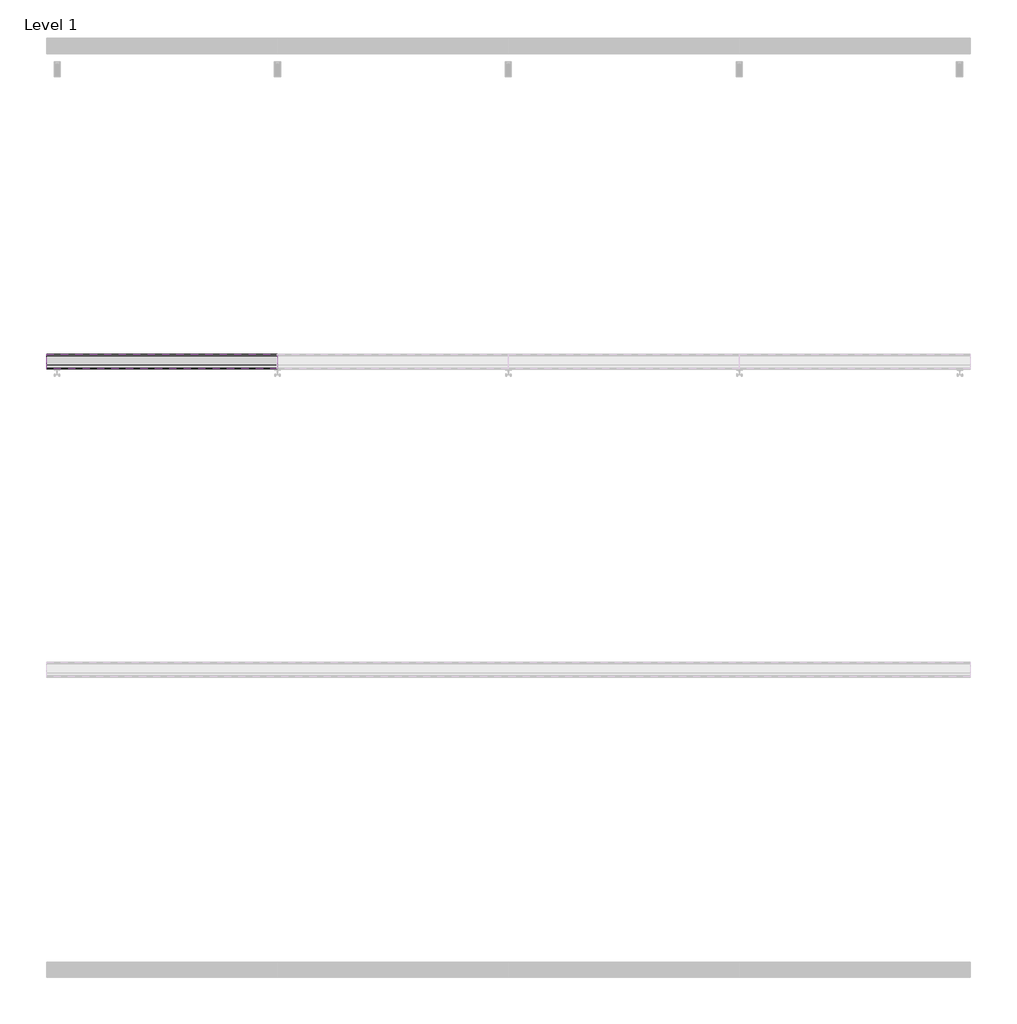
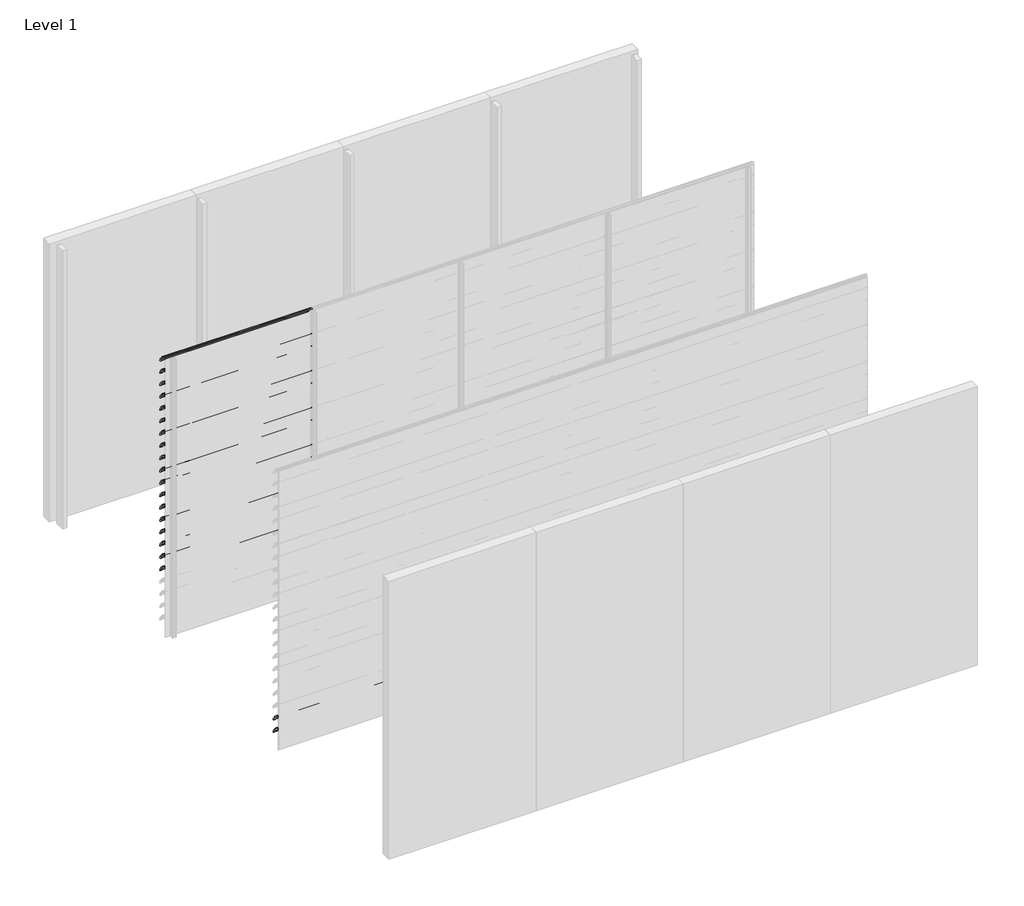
# One storey, part 15 of 57: 20 proxies.
"""IFC4 building model written with IfcOpenShell, lengths in millimetres."""

from ifc_helpers import new_model, si_unit, point, frame, frame_2d, origin, place, context, project, spatial, polyline, circle_curve, trimmed, segment, composite_curve, outline, extrude, element, save

model = new_model("IFC4")

# Units and contexts
model_context = context("Model", 3, world=origin())
ifc_project = project(units=[si_unit("LENGTHUNIT", "METRE", prefix="MILLI")], contexts=[model_context])

# Site, building, storey
site = spatial("IfcSite", under=ifc_project)
building = spatial("IfcBuilding", under=site)
storey = spatial("IfcBuildingStorey", under=building, Name="Level 1", Elevation=0.0)

# Proxies
placement = place(None, origin())
element("IfcBuildingElementProxy", 1, Name="Wall Sweeps", at=placement, inside=storey, context=model_context, shape_type="SweptSolid", body=[
    extrude(outline(composite_curve([segment(trimmed(circle_curve(frame_2d((-41993.7822526, 3016.4913792)), 4.2177474), [point((-41989.6985606, 3017.5462976))], [point((-41993.7822526, 3020.7091266))], False, "CARTESIAN"), True, "CONTINUOUS"), segment(trimmed(circle_curve(frame_2d((-42018.7150834, 2918.2536312)), 105.4456002), [point((-41993.7822526, 3020.7091266))], [point((-41971.7914298, 3012.6832099))], False, "CARTESIAN"), True, "CONTINUOUS"), segment(trimmed(circle_curve(frame_2d((-42061.7199745, 2864.0352476)), 173.7335887), [point((-41971.7914298, 3012.6832099))], [point((-41913.0720121, 2953.9637922))], False, "CARTESIAN"), True, "CONTINUOUS"), segment(trimmed(circle_curve(frame_2d((-42004.9297178, 2902.1860314)), 105.4456002), [point((-41913.0720121, 2953.9637922))], [point((-41903.6249616, 2931.4455765))], False, "CARTESIAN"), True, "CONTINUOUS"), segment(trimmed(circle_curve(frame_2d((-41907.809737, 2930.3307305)), 4.3307305), [point((-41903.6249616, 2931.4455765))], [point((-41909.0769196, 2926.189538))], False, "CARTESIAN"), True, "CONTINUOUS"), segment(polyline([(-41909.0769196, 2926.189538), (-41934.7401984, 2950.9722783)]), True, "CONTINUOUS"), segment(trimmed(circle_curve(frame_2d((-41931.3879574, 2953.2977626)), 4.079877), [point((-41934.7401984, 2950.9722783))], [point((-41930.7310597, 2957.3244091))], False, "CARTESIAN"), True, "CONTINUOUS"), segment(trimmed(circle_curve(frame_2d((-42014.6665585, 2935.2544323)), 86.7885467), [point((-41930.7310597, 2957.3244091))], [point((-41942.3028351, 2983.1683485))], True, "CARTESIAN"), True, "CONTINUOUS"), segment(polyline([(-41942.3028351, 2983.1683485), (-41940.7230099, 2985.9046861)]), True, "CONTINUOUS"), segment(trimmed(circle_curve(frame_2d((-42061.7199745, 2864.0352476)), 171.7335887), [point((-41940.7230099, 2985.9046861))], [point((-41972.7555872, 3010.9289618))], True, "CARTESIAN"), True, "CONTINUOUS"), segment(trimmed(circle_curve(frame_2d((-42018.7150834, 2918.2536312)), 103.4456002), [point((-41972.7555872, 3010.9289618))], [point((-41989.6985606, 3017.5462976))], True, "CARTESIAN"), True, "CONTINUOUS")], self_intersect=False)), frame((0.0, 0.0, 0.0), z_axis=(1.0, 0.0, 0.0), x_axis=(0.0, 1.0, 0.0)), (0.0, 0.0, 1.0), 1500.0),
])
element("IfcBuildingElementProxy", 2, Name="Wall Sweeps", at=placement, inside=storey, context=model_context, shape_type="SweptSolid", body=[
    extrude(outline(composite_curve([segment(trimmed(circle_curve(frame_2d((-41993.7822526, 2883.4913792)), 4.2177474), [point((-41989.6985606, 2884.5462976))], [point((-41993.7822526, 2887.7091266))], False, "CARTESIAN"), True, "CONTINUOUS"), segment(trimmed(circle_curve(frame_2d((-42018.7150834, 2785.2536312)), 105.4456002), [point((-41993.7822526, 2887.7091266))], [point((-41971.7914298, 2879.6832099))], False, "CARTESIAN"), True, "CONTINUOUS"), segment(trimmed(circle_curve(frame_2d((-42061.7199745, 2731.0352476)), 173.7335887), [point((-41971.7914298, 2879.6832099))], [point((-41913.0720121, 2820.9637922))], False, "CARTESIAN"), True, "CONTINUOUS"), segment(trimmed(circle_curve(frame_2d((-42004.9297178, 2769.1860314)), 105.4456002), [point((-41913.0720121, 2820.9637922))], [point((-41903.6249616, 2798.4455765))], False, "CARTESIAN"), True, "CONTINUOUS"), segment(trimmed(circle_curve(frame_2d((-41907.809737, 2797.3307305)), 4.3307305), [point((-41903.6249616, 2798.4455765))], [point((-41909.0769196, 2793.189538))], False, "CARTESIAN"), True, "CONTINUOUS"), segment(polyline([(-41909.0769196, 2793.189538), (-41934.7401984, 2817.9722783)]), True, "CONTINUOUS"), segment(trimmed(circle_curve(frame_2d((-41931.3879574, 2820.2977626)), 4.079877), [point((-41934.7401984, 2817.9722783))], [point((-41930.7310597, 2824.3244091))], False, "CARTESIAN"), True, "CONTINUOUS"), segment(trimmed(circle_curve(frame_2d((-42014.6665585, 2802.2544323)), 86.7885467), [point((-41930.7310597, 2824.3244091))], [point((-41942.3028351, 2850.1683485))], True, "CARTESIAN"), True, "CONTINUOUS"), segment(polyline([(-41942.3028351, 2850.1683485), (-41940.7230099, 2852.9046861)]), True, "CONTINUOUS"), segment(trimmed(circle_curve(frame_2d((-42061.7199745, 2731.0352476)), 171.7335887), [point((-41940.7230099, 2852.9046861))], [point((-41972.7555872, 2877.9289618))], True, "CARTESIAN"), True, "CONTINUOUS"), segment(trimmed(circle_curve(frame_2d((-42018.7150834, 2785.2536312)), 103.4456002), [point((-41972.7555872, 2877.9289618))], [point((-41989.6985606, 2884.5462976))], True, "CARTESIAN"), True, "CONTINUOUS")], self_intersect=False)), frame((0.0, 0.0, 0.0), z_axis=(1.0, 0.0, 0.0), x_axis=(0.0, 1.0, 0.0)), (0.0, 0.0, 1.0), 1500.0),
])
element("IfcBuildingElementProxy", 3, Name="Wall Sweeps", at=placement, inside=storey, context=model_context, shape_type="SweptSolid", body=[
    extrude(outline(composite_curve([segment(trimmed(circle_curve(frame_2d((-41993.7822526, 2750.4913792)), 4.2177474), [point((-41989.6985606, 2751.5462976))], [point((-41993.7822526, 2754.7091266))], False, "CARTESIAN"), True, "CONTINUOUS"), segment(trimmed(circle_curve(frame_2d((-42018.7150834, 2652.2536312)), 105.4456002), [point((-41993.7822526, 2754.7091266))], [point((-41971.7914298, 2746.6832099))], False, "CARTESIAN"), True, "CONTINUOUS"), segment(trimmed(circle_curve(frame_2d((-42061.7199745, 2598.0352476)), 173.7335887), [point((-41971.7914298, 2746.6832099))], [point((-41913.0720121, 2687.9637922))], False, "CARTESIAN"), True, "CONTINUOUS"), segment(trimmed(circle_curve(frame_2d((-42004.9297178, 2636.1860314)), 105.4456002), [point((-41913.0720121, 2687.9637922))], [point((-41903.6249616, 2665.4455765))], False, "CARTESIAN"), True, "CONTINUOUS"), segment(trimmed(circle_curve(frame_2d((-41907.809737, 2664.3307305)), 4.3307305), [point((-41903.6249616, 2665.4455765))], [point((-41909.0769196, 2660.189538))], False, "CARTESIAN"), True, "CONTINUOUS"), segment(polyline([(-41909.0769196, 2660.189538), (-41934.7401984, 2684.9722783)]), True, "CONTINUOUS"), segment(trimmed(circle_curve(frame_2d((-41931.3879574, 2687.2977626)), 4.079877), [point((-41934.7401984, 2684.9722783))], [point((-41930.7310597, 2691.3244091))], False, "CARTESIAN"), True, "CONTINUOUS"), segment(trimmed(circle_curve(frame_2d((-42014.6665585, 2669.2544323)), 86.7885467), [point((-41930.7310597, 2691.3244091))], [point((-41942.3028351, 2717.1683485))], True, "CARTESIAN"), True, "CONTINUOUS"), segment(polyline([(-41942.3028351, 2717.1683485), (-41940.7230099, 2719.9046861)]), True, "CONTINUOUS"), segment(trimmed(circle_curve(frame_2d((-42061.7199745, 2598.0352476)), 171.7335887), [point((-41940.7230099, 2719.9046861))], [point((-41972.7555872, 2744.9289618))], True, "CARTESIAN"), True, "CONTINUOUS"), segment(trimmed(circle_curve(frame_2d((-42018.7150834, 2652.2536312)), 103.4456002), [point((-41972.7555872, 2744.9289618))], [point((-41989.6985606, 2751.5462976))], True, "CARTESIAN"), True, "CONTINUOUS")], self_intersect=False)), frame((0.0, 0.0, 0.0), z_axis=(1.0, 0.0, 0.0), x_axis=(0.0, 1.0, 0.0)), (0.0, 0.0, 1.0), 1500.0),
])
element("IfcBuildingElementProxy", 4, Name="Wall Sweeps", at=placement, inside=storey, context=model_context, shape_type="SweptSolid", body=[
    extrude(outline(composite_curve([segment(trimmed(circle_curve(frame_2d((-41993.7822526, 2617.4913792)), 4.2177474), [point((-41989.6985606, 2618.5462976))], [point((-41993.7822526, 2621.7091266))], False, "CARTESIAN"), True, "CONTINUOUS"), segment(trimmed(circle_curve(frame_2d((-42018.7150834, 2519.2536312)), 105.4456002), [point((-41993.7822526, 2621.7091266))], [point((-41971.7914298, 2613.6832099))], False, "CARTESIAN"), True, "CONTINUOUS"), segment(trimmed(circle_curve(frame_2d((-42061.7199745, 2465.0352476)), 173.7335887), [point((-41971.7914298, 2613.6832099))], [point((-41913.0720121, 2554.9637922))], False, "CARTESIAN"), True, "CONTINUOUS"), segment(trimmed(circle_curve(frame_2d((-42004.9297178, 2503.1860314)), 105.4456002), [point((-41913.0720121, 2554.9637922))], [point((-41903.6249616, 2532.4455765))], False, "CARTESIAN"), True, "CONTINUOUS"), segment(trimmed(circle_curve(frame_2d((-41907.809737, 2531.3307305)), 4.3307305), [point((-41903.6249616, 2532.4455765))], [point((-41909.0769196, 2527.189538))], False, "CARTESIAN"), True, "CONTINUOUS"), segment(polyline([(-41909.0769196, 2527.189538), (-41934.7401984, 2551.9722783)]), True, "CONTINUOUS"), segment(trimmed(circle_curve(frame_2d((-41931.3879574, 2554.2977626)), 4.079877), [point((-41934.7401984, 2551.9722783))], [point((-41930.7310597, 2558.3244091))], False, "CARTESIAN"), True, "CONTINUOUS"), segment(trimmed(circle_curve(frame_2d((-42014.6665585, 2536.2544323)), 86.7885467), [point((-41930.7310597, 2558.3244091))], [point((-41942.3028351, 2584.1683485))], True, "CARTESIAN"), True, "CONTINUOUS"), segment(polyline([(-41942.3028351, 2584.1683485), (-41940.7230099, 2586.9046861)]), True, "CONTINUOUS"), segment(trimmed(circle_curve(frame_2d((-42061.7199745, 2465.0352476)), 171.7335887), [point((-41940.7230099, 2586.9046861))], [point((-41972.7555872, 2611.9289618))], True, "CARTESIAN"), True, "CONTINUOUS"), segment(trimmed(circle_curve(frame_2d((-42018.7150834, 2519.2536312)), 103.4456002), [point((-41972.7555872, 2611.9289618))], [point((-41989.6985606, 2618.5462976))], True, "CARTESIAN"), True, "CONTINUOUS")], self_intersect=False)), frame((0.0, 0.0, 0.0), z_axis=(1.0, 0.0, 0.0), x_axis=(0.0, 1.0, 0.0)), (0.0, 0.0, 1.0), 1500.0),
])
element("IfcBuildingElementProxy", 5, Name="Wall Sweeps", at=placement, inside=storey, context=model_context, shape_type="SweptSolid", body=[
    extrude(outline(composite_curve([segment(trimmed(circle_curve(frame_2d((-41993.7822526, 2484.4913792)), 4.2177474), [point((-41989.6985606, 2485.5462976))], [point((-41993.7822526, 2488.7091266))], False, "CARTESIAN"), True, "CONTINUOUS"), segment(trimmed(circle_curve(frame_2d((-42018.7150834, 2386.2536312)), 105.4456002), [point((-41993.7822526, 2488.7091266))], [point((-41971.7914298, 2480.6832099))], False, "CARTESIAN"), True, "CONTINUOUS"), segment(trimmed(circle_curve(frame_2d((-42061.7199745, 2332.0352476)), 173.7335887), [point((-41971.7914298, 2480.6832099))], [point((-41913.0720121, 2421.9637922))], False, "CARTESIAN"), True, "CONTINUOUS"), segment(trimmed(circle_curve(frame_2d((-42004.9297178, 2370.1860314)), 105.4456002), [point((-41913.0720121, 2421.9637922))], [point((-41903.6249616, 2399.4455765))], False, "CARTESIAN"), True, "CONTINUOUS"), segment(trimmed(circle_curve(frame_2d((-41907.809737, 2398.3307305)), 4.3307305), [point((-41903.6249616, 2399.4455765))], [point((-41909.0769196, 2394.189538))], False, "CARTESIAN"), True, "CONTINUOUS"), segment(polyline([(-41909.0769196, 2394.189538), (-41934.7401984, 2418.9722783)]), True, "CONTINUOUS"), segment(trimmed(circle_curve(frame_2d((-41931.3879574, 2421.2977626)), 4.079877), [point((-41934.7401984, 2418.9722783))], [point((-41930.7310597, 2425.3244091))], False, "CARTESIAN"), True, "CONTINUOUS"), segment(trimmed(circle_curve(frame_2d((-42014.6665585, 2403.2544323)), 86.7885467), [point((-41930.7310597, 2425.3244091))], [point((-41942.3028351, 2451.1683485))], True, "CARTESIAN"), True, "CONTINUOUS"), segment(polyline([(-41942.3028351, 2451.1683485), (-41940.7230099, 2453.9046861)]), True, "CONTINUOUS"), segment(trimmed(circle_curve(frame_2d((-42061.7199745, 2332.0352476)), 171.7335887), [point((-41940.7230099, 2453.9046861))], [point((-41972.7555872, 2478.9289618))], True, "CARTESIAN"), True, "CONTINUOUS"), segment(trimmed(circle_curve(frame_2d((-42018.7150834, 2386.2536312)), 103.4456002), [point((-41972.7555872, 2478.9289618))], [point((-41989.6985606, 2485.5462976))], True, "CARTESIAN"), True, "CONTINUOUS")], self_intersect=False)), frame((0.0, 0.0, 0.0), z_axis=(1.0, 0.0, 0.0), x_axis=(0.0, 1.0, 0.0)), (0.0, 0.0, 1.0), 1500.0),
])
element("IfcBuildingElementProxy", 6, Name="Wall Sweeps", at=placement, inside=storey, context=model_context, shape_type="SweptSolid", body=[
    extrude(outline(composite_curve([segment(trimmed(circle_curve(frame_2d((-41993.7822526, 2351.4913792)), 4.2177474), [point((-41989.6985606, 2352.5462976))], [point((-41993.7822526, 2355.7091266))], False, "CARTESIAN"), True, "CONTINUOUS"), segment(trimmed(circle_curve(frame_2d((-42018.7150834, 2253.2536312)), 105.4456002), [point((-41993.7822526, 2355.7091266))], [point((-41971.7914298, 2347.6832099))], False, "CARTESIAN"), True, "CONTINUOUS"), segment(trimmed(circle_curve(frame_2d((-42061.7199745, 2199.0352476)), 173.7335887), [point((-41971.7914298, 2347.6832099))], [point((-41913.0720121, 2288.9637922))], False, "CARTESIAN"), True, "CONTINUOUS"), segment(trimmed(circle_curve(frame_2d((-42004.9297178, 2237.1860314)), 105.4456002), [point((-41913.0720121, 2288.9637922))], [point((-41903.6249616, 2266.4455765))], False, "CARTESIAN"), True, "CONTINUOUS"), segment(trimmed(circle_curve(frame_2d((-41907.809737, 2265.3307305)), 4.3307305), [point((-41903.6249616, 2266.4455765))], [point((-41909.0769196, 2261.189538))], False, "CARTESIAN"), True, "CONTINUOUS"), segment(polyline([(-41909.0769196, 2261.189538), (-41934.7401984, 2285.9722783)]), True, "CONTINUOUS"), segment(trimmed(circle_curve(frame_2d((-41931.3879574, 2288.2977626)), 4.079877), [point((-41934.7401984, 2285.9722783))], [point((-41930.7310597, 2292.3244091))], False, "CARTESIAN"), True, "CONTINUOUS"), segment(trimmed(circle_curve(frame_2d((-42014.6665585, 2270.2544323)), 86.7885467), [point((-41930.7310597, 2292.3244091))], [point((-41942.3028351, 2318.1683485))], True, "CARTESIAN"), True, "CONTINUOUS"), segment(polyline([(-41942.3028351, 2318.1683485), (-41940.7230099, 2320.9046861)]), True, "CONTINUOUS"), segment(trimmed(circle_curve(frame_2d((-42061.7199745, 2199.0352476)), 171.7335887), [point((-41940.7230099, 2320.9046861))], [point((-41972.7555872, 2345.9289618))], True, "CARTESIAN"), True, "CONTINUOUS"), segment(trimmed(circle_curve(frame_2d((-42018.7150834, 2253.2536312)), 103.4456002), [point((-41972.7555872, 2345.9289618))], [point((-41989.6985606, 2352.5462976))], True, "CARTESIAN"), True, "CONTINUOUS")], self_intersect=False)), frame((0.0, 0.0, 0.0), z_axis=(1.0, 0.0, 0.0), x_axis=(0.0, 1.0, 0.0)), (0.0, 0.0, 1.0), 1500.0),
])
element("IfcBuildingElementProxy", 7, Name="Wall Sweeps", at=placement, inside=storey, context=model_context, shape_type="SweptSolid", body=[
    extrude(outline(composite_curve([segment(trimmed(circle_curve(frame_2d((-41993.7822526, 2218.4913792)), 4.2177474), [point((-41989.6985606, 2219.5462976))], [point((-41993.7822526, 2222.7091266))], False, "CARTESIAN"), True, "CONTINUOUS"), segment(trimmed(circle_curve(frame_2d((-42018.7150834, 2120.2536312)), 105.4456002), [point((-41993.7822526, 2222.7091266))], [point((-41971.7914298, 2214.6832099))], False, "CARTESIAN"), True, "CONTINUOUS"), segment(trimmed(circle_curve(frame_2d((-42061.7199745, 2066.0352476)), 173.7335887), [point((-41971.7914298, 2214.6832099))], [point((-41913.0720121, 2155.9637922))], False, "CARTESIAN"), True, "CONTINUOUS"), segment(trimmed(circle_curve(frame_2d((-42004.9297178, 2104.1860314)), 105.4456002), [point((-41913.0720121, 2155.9637922))], [point((-41903.6249616, 2133.4455765))], False, "CARTESIAN"), True, "CONTINUOUS"), segment(trimmed(circle_curve(frame_2d((-41907.809737, 2132.3307305)), 4.3307305), [point((-41903.6249616, 2133.4455765))], [point((-41909.0769196, 2128.189538))], False, "CARTESIAN"), True, "CONTINUOUS"), segment(polyline([(-41909.0769196, 2128.189538), (-41934.7401984, 2152.9722783)]), True, "CONTINUOUS"), segment(trimmed(circle_curve(frame_2d((-41931.3879574, 2155.2977626)), 4.079877), [point((-41934.7401984, 2152.9722783))], [point((-41930.7310597, 2159.3244091))], False, "CARTESIAN"), True, "CONTINUOUS"), segment(trimmed(circle_curve(frame_2d((-42014.6665585, 2137.2544323)), 86.7885467), [point((-41930.7310597, 2159.3244091))], [point((-41942.3028351, 2185.1683485))], True, "CARTESIAN"), True, "CONTINUOUS"), segment(polyline([(-41942.3028351, 2185.1683485), (-41940.7230099, 2187.9046861)]), True, "CONTINUOUS"), segment(trimmed(circle_curve(frame_2d((-42061.7199745, 2066.0352476)), 171.7335887), [point((-41940.7230099, 2187.9046861))], [point((-41972.7555872, 2212.9289618))], True, "CARTESIAN"), True, "CONTINUOUS"), segment(trimmed(circle_curve(frame_2d((-42018.7150834, 2120.2536312)), 103.4456002), [point((-41972.7555872, 2212.9289618))], [point((-41989.6985606, 2219.5462976))], True, "CARTESIAN"), True, "CONTINUOUS")], self_intersect=False)), frame((0.0, 0.0, 0.0), z_axis=(1.0, 0.0, 0.0), x_axis=(0.0, 1.0, 0.0)), (0.0, 0.0, 1.0), 1500.0),
])
element("IfcBuildingElementProxy", 8, Name="Wall Sweeps", at=placement, inside=storey, context=model_context, shape_type="SweptSolid", body=[
    extrude(outline(composite_curve([segment(trimmed(circle_curve(frame_2d((-41993.7822526, 2085.4913792)), 4.2177474), [point((-41989.6985606, 2086.5462976))], [point((-41993.7822526, 2089.7091266))], False, "CARTESIAN"), True, "CONTINUOUS"), segment(trimmed(circle_curve(frame_2d((-42018.7150834, 1987.2536312)), 105.4456002), [point((-41993.7822526, 2089.7091266))], [point((-41971.7914298, 2081.6832099))], False, "CARTESIAN"), True, "CONTINUOUS"), segment(trimmed(circle_curve(frame_2d((-42061.7199745, 1933.0352476)), 173.7335887), [point((-41971.7914298, 2081.6832099))], [point((-41913.0720121, 2022.9637922))], False, "CARTESIAN"), True, "CONTINUOUS"), segment(trimmed(circle_curve(frame_2d((-42004.9297178, 1971.1860314)), 105.4456002), [point((-41913.0720121, 2022.9637922))], [point((-41903.6249616, 2000.4455765))], False, "CARTESIAN"), True, "CONTINUOUS"), segment(trimmed(circle_curve(frame_2d((-41907.809737, 1999.3307305)), 4.3307305), [point((-41903.6249616, 2000.4455765))], [point((-41909.0769196, 1995.189538))], False, "CARTESIAN"), True, "CONTINUOUS"), segment(polyline([(-41909.0769196, 1995.189538), (-41934.7401984, 2019.9722783)]), True, "CONTINUOUS"), segment(trimmed(circle_curve(frame_2d((-41931.3879574, 2022.2977626)), 4.079877), [point((-41934.7401984, 2019.9722783))], [point((-41930.7310597, 2026.3244091))], False, "CARTESIAN"), True, "CONTINUOUS"), segment(trimmed(circle_curve(frame_2d((-42014.6665585, 2004.2544323)), 86.7885467), [point((-41930.7310597, 2026.3244091))], [point((-41942.3028351, 2052.1683485))], True, "CARTESIAN"), True, "CONTINUOUS"), segment(polyline([(-41942.3028351, 2052.1683485), (-41940.7230099, 2054.9046861)]), True, "CONTINUOUS"), segment(trimmed(circle_curve(frame_2d((-42061.7199745, 1933.0352476)), 171.7335887), [point((-41940.7230099, 2054.9046861))], [point((-41972.7555872, 2079.9289618))], True, "CARTESIAN"), True, "CONTINUOUS"), segment(trimmed(circle_curve(frame_2d((-42018.7150834, 1987.2536312)), 103.4456002), [point((-41972.7555872, 2079.9289618))], [point((-41989.6985606, 2086.5462976))], True, "CARTESIAN"), True, "CONTINUOUS")], self_intersect=False)), frame((0.0, 0.0, 0.0), z_axis=(1.0, 0.0, 0.0), x_axis=(0.0, 1.0, 0.0)), (0.0, 0.0, 1.0), 1500.0),
])
element("IfcBuildingElementProxy", 9, Name="Wall Sweeps", at=placement, inside=storey, context=model_context, shape_type="SweptSolid", body=[
    extrude(outline(composite_curve([segment(trimmed(circle_curve(frame_2d((-41993.7822526, 1952.4913792)), 4.2177474), [point((-41989.6985606, 1953.5462976))], [point((-41993.7822526, 1956.7091266))], False, "CARTESIAN"), True, "CONTINUOUS"), segment(trimmed(circle_curve(frame_2d((-42018.7150834, 1854.2536312)), 105.4456002), [point((-41993.7822526, 1956.7091266))], [point((-41971.7914298, 1948.6832099))], False, "CARTESIAN"), True, "CONTINUOUS"), segment(trimmed(circle_curve(frame_2d((-42061.7199745, 1800.0352476)), 173.7335887), [point((-41971.7914298, 1948.6832099))], [point((-41913.0720121, 1889.9637922))], False, "CARTESIAN"), True, "CONTINUOUS"), segment(trimmed(circle_curve(frame_2d((-42004.9297178, 1838.1860314)), 105.4456002), [point((-41913.0720121, 1889.9637922))], [point((-41903.6249616, 1867.4455765))], False, "CARTESIAN"), True, "CONTINUOUS"), segment(trimmed(circle_curve(frame_2d((-41907.809737, 1866.3307305)), 4.3307305), [point((-41903.6249616, 1867.4455765))], [point((-41909.0769196, 1862.189538))], False, "CARTESIAN"), True, "CONTINUOUS"), segment(polyline([(-41909.0769196, 1862.189538), (-41934.7401984, 1886.9722783)]), True, "CONTINUOUS"), segment(trimmed(circle_curve(frame_2d((-41931.3879574, 1889.2977626)), 4.079877), [point((-41934.7401984, 1886.9722783))], [point((-41930.7310597, 1893.3244091))], False, "CARTESIAN"), True, "CONTINUOUS"), segment(trimmed(circle_curve(frame_2d((-42014.6665585, 1871.2544323)), 86.7885467), [point((-41930.7310597, 1893.3244091))], [point((-41942.3028351, 1919.1683485))], True, "CARTESIAN"), True, "CONTINUOUS"), segment(polyline([(-41942.3028351, 1919.1683485), (-41940.7230099, 1921.9046861)]), True, "CONTINUOUS"), segment(trimmed(circle_curve(frame_2d((-42061.7199745, 1800.0352476)), 171.7335887), [point((-41940.7230099, 1921.9046861))], [point((-41972.7555872, 1946.9289618))], True, "CARTESIAN"), True, "CONTINUOUS"), segment(trimmed(circle_curve(frame_2d((-42018.7150834, 1854.2536312)), 103.4456002), [point((-41972.7555872, 1946.9289618))], [point((-41989.6985606, 1953.5462976))], True, "CARTESIAN"), True, "CONTINUOUS")], self_intersect=False)), frame((0.0, 0.0, 0.0), z_axis=(1.0, 0.0, 0.0), x_axis=(0.0, 1.0, 0.0)), (0.0, 0.0, 1.0), 1500.0),
])
element("IfcBuildingElementProxy", 10, Name="Wall Sweeps", at=placement, inside=storey, context=model_context, shape_type="SweptSolid", body=[
    extrude(outline(composite_curve([segment(trimmed(circle_curve(frame_2d((-41993.7822526, 1819.4913792)), 4.2177474), [point((-41989.6985606, 1820.5462976))], [point((-41993.7822526, 1823.7091266))], False, "CARTESIAN"), True, "CONTINUOUS"), segment(trimmed(circle_curve(frame_2d((-42018.7150834, 1721.2536312)), 105.4456002), [point((-41993.7822526, 1823.7091266))], [point((-41971.7914298, 1815.6832099))], False, "CARTESIAN"), True, "CONTINUOUS"), segment(trimmed(circle_curve(frame_2d((-42061.7199745, 1667.0352476)), 173.7335887), [point((-41971.7914298, 1815.6832099))], [point((-41913.0720121, 1756.9637922))], False, "CARTESIAN"), True, "CONTINUOUS"), segment(trimmed(circle_curve(frame_2d((-42004.9297178, 1705.1860314)), 105.4456002), [point((-41913.0720121, 1756.9637922))], [point((-41903.6249616, 1734.4455765))], False, "CARTESIAN"), True, "CONTINUOUS"), segment(trimmed(circle_curve(frame_2d((-41907.809737, 1733.3307305)), 4.3307305), [point((-41903.6249616, 1734.4455765))], [point((-41909.0769196, 1729.189538))], False, "CARTESIAN"), True, "CONTINUOUS"), segment(polyline([(-41909.0769196, 1729.189538), (-41934.7401984, 1753.9722783)]), True, "CONTINUOUS"), segment(trimmed(circle_curve(frame_2d((-41931.3879574, 1756.2977626)), 4.079877), [point((-41934.7401984, 1753.9722783))], [point((-41930.7310597, 1760.3244091))], False, "CARTESIAN"), True, "CONTINUOUS"), segment(trimmed(circle_curve(frame_2d((-42014.6665585, 1738.2544323)), 86.7885467), [point((-41930.7310597, 1760.3244091))], [point((-41942.3028351, 1786.1683485))], True, "CARTESIAN"), True, "CONTINUOUS"), segment(polyline([(-41942.3028351, 1786.1683485), (-41940.7230099, 1788.9046861)]), True, "CONTINUOUS"), segment(trimmed(circle_curve(frame_2d((-42061.7199745, 1667.0352476)), 171.7335887), [point((-41940.7230099, 1788.9046861))], [point((-41972.7555872, 1813.9289618))], True, "CARTESIAN"), True, "CONTINUOUS"), segment(trimmed(circle_curve(frame_2d((-42018.7150834, 1721.2536312)), 103.4456002), [point((-41972.7555872, 1813.9289618))], [point((-41989.6985606, 1820.5462976))], True, "CARTESIAN"), True, "CONTINUOUS")], self_intersect=False)), frame((0.0, 0.0, 0.0), z_axis=(1.0, 0.0, 0.0), x_axis=(0.0, 1.0, 0.0)), (0.0, 0.0, 1.0), 1500.0),
])
element("IfcBuildingElementProxy", 11, Name="Wall Sweeps", at=placement, inside=storey, context=model_context, shape_type="SweptSolid", body=[
    extrude(outline(composite_curve([segment(trimmed(circle_curve(frame_2d((-41993.7822526, 1686.4913792)), 4.2177474), [point((-41989.6985606, 1687.5462976))], [point((-41993.7822526, 1690.7091266))], False, "CARTESIAN"), True, "CONTINUOUS"), segment(trimmed(circle_curve(frame_2d((-42018.7150834, 1588.2536312)), 105.4456002), [point((-41993.7822526, 1690.7091266))], [point((-41971.7914298, 1682.6832099))], False, "CARTESIAN"), True, "CONTINUOUS"), segment(trimmed(circle_curve(frame_2d((-42061.7199745, 1534.0352476)), 173.7335887), [point((-41971.7914298, 1682.6832099))], [point((-41913.0720121, 1623.9637922))], False, "CARTESIAN"), True, "CONTINUOUS"), segment(trimmed(circle_curve(frame_2d((-42004.9297178, 1572.1860314)), 105.4456002), [point((-41913.0720121, 1623.9637922))], [point((-41903.6249616, 1601.4455765))], False, "CARTESIAN"), True, "CONTINUOUS"), segment(trimmed(circle_curve(frame_2d((-41907.809737, 1600.3307305)), 4.3307305), [point((-41903.6249616, 1601.4455765))], [point((-41909.0769196, 1596.189538))], False, "CARTESIAN"), True, "CONTINUOUS"), segment(polyline([(-41909.0769196, 1596.189538), (-41934.7401984, 1620.9722783)]), True, "CONTINUOUS"), segment(trimmed(circle_curve(frame_2d((-41931.3879574, 1623.2977626)), 4.079877), [point((-41934.7401984, 1620.9722783))], [point((-41930.7310597, 1627.3244091))], False, "CARTESIAN"), True, "CONTINUOUS"), segment(trimmed(circle_curve(frame_2d((-42014.6665585, 1605.2544323)), 86.7885467), [point((-41930.7310597, 1627.3244091))], [point((-41942.3028351, 1653.1683485))], True, "CARTESIAN"), True, "CONTINUOUS"), segment(polyline([(-41942.3028351, 1653.1683485), (-41940.7230099, 1655.9046861)]), True, "CONTINUOUS"), segment(trimmed(circle_curve(frame_2d((-42061.7199745, 1534.0352476)), 171.7335887), [point((-41940.7230099, 1655.9046861))], [point((-41972.7555872, 1680.9289618))], True, "CARTESIAN"), True, "CONTINUOUS"), segment(trimmed(circle_curve(frame_2d((-42018.7150834, 1588.2536312)), 103.4456002), [point((-41972.7555872, 1680.9289618))], [point((-41989.6985606, 1687.5462976))], True, "CARTESIAN"), True, "CONTINUOUS")], self_intersect=False)), frame((0.0, 0.0, 0.0), z_axis=(1.0, 0.0, 0.0), x_axis=(0.0, 1.0, 0.0)), (0.0, 0.0, 1.0), 1500.0),
])
element("IfcBuildingElementProxy", 12, Name="Wall Sweeps", at=placement, inside=storey, context=model_context, shape_type="SweptSolid", body=[
    extrude(outline(composite_curve([segment(trimmed(circle_curve(frame_2d((-41993.7822526, 1553.4913792)), 4.2177474), [point((-41989.6985606, 1554.5462976))], [point((-41993.7822526, 1557.7091266))], False, "CARTESIAN"), True, "CONTINUOUS"), segment(trimmed(circle_curve(frame_2d((-42018.7150834, 1455.2536312)), 105.4456002), [point((-41993.7822526, 1557.7091266))], [point((-41971.7914298, 1549.6832099))], False, "CARTESIAN"), True, "CONTINUOUS"), segment(trimmed(circle_curve(frame_2d((-42061.7199745, 1401.0352476)), 173.7335887), [point((-41971.7914298, 1549.6832099))], [point((-41913.0720121, 1490.9637922))], False, "CARTESIAN"), True, "CONTINUOUS"), segment(trimmed(circle_curve(frame_2d((-42004.9297178, 1439.1860314)), 105.4456002), [point((-41913.0720121, 1490.9637922))], [point((-41903.6249616, 1468.4455765))], False, "CARTESIAN"), True, "CONTINUOUS"), segment(trimmed(circle_curve(frame_2d((-41907.809737, 1467.3307305)), 4.3307305), [point((-41903.6249616, 1468.4455765))], [point((-41909.0769196, 1463.189538))], False, "CARTESIAN"), True, "CONTINUOUS"), segment(polyline([(-41909.0769196, 1463.189538), (-41934.7401984, 1487.9722783)]), True, "CONTINUOUS"), segment(trimmed(circle_curve(frame_2d((-41931.3879574, 1490.2977626)), 4.079877), [point((-41934.7401984, 1487.9722783))], [point((-41930.7310597, 1494.3244091))], False, "CARTESIAN"), True, "CONTINUOUS"), segment(trimmed(circle_curve(frame_2d((-42014.6665585, 1472.2544323)), 86.7885467), [point((-41930.7310597, 1494.3244091))], [point((-41942.3028351, 1520.1683485))], True, "CARTESIAN"), True, "CONTINUOUS"), segment(polyline([(-41942.3028351, 1520.1683485), (-41940.7230099, 1522.9046861)]), True, "CONTINUOUS"), segment(trimmed(circle_curve(frame_2d((-42061.7199745, 1401.0352476)), 171.7335887), [point((-41940.7230099, 1522.9046861))], [point((-41972.7555872, 1547.9289618))], True, "CARTESIAN"), True, "CONTINUOUS"), segment(trimmed(circle_curve(frame_2d((-42018.7150834, 1455.2536312)), 103.4456002), [point((-41972.7555872, 1547.9289618))], [point((-41989.6985606, 1554.5462976))], True, "CARTESIAN"), True, "CONTINUOUS")], self_intersect=False)), frame((0.0, 0.0, 0.0), z_axis=(1.0, 0.0, 0.0), x_axis=(0.0, 1.0, 0.0)), (0.0, 0.0, 1.0), 1500.0),
])
element("IfcBuildingElementProxy", 13, Name="Wall Sweeps", at=placement, inside=storey, context=model_context, shape_type="SweptSolid", body=[
    extrude(outline(composite_curve([segment(trimmed(circle_curve(frame_2d((-41993.7822526, 1420.4913792)), 4.2177474), [point((-41989.6985606, 1421.5462976))], [point((-41993.7822526, 1424.7091266))], False, "CARTESIAN"), True, "CONTINUOUS"), segment(trimmed(circle_curve(frame_2d((-42018.7150834, 1322.2536312)), 105.4456002), [point((-41993.7822526, 1424.7091266))], [point((-41971.7914298, 1416.6832099))], False, "CARTESIAN"), True, "CONTINUOUS"), segment(trimmed(circle_curve(frame_2d((-42061.7199745, 1268.0352476)), 173.7335887), [point((-41971.7914298, 1416.6832099))], [point((-41913.0720121, 1357.9637922))], False, "CARTESIAN"), True, "CONTINUOUS"), segment(trimmed(circle_curve(frame_2d((-42004.9297178, 1306.1860314)), 105.4456002), [point((-41913.0720121, 1357.9637922))], [point((-41903.6249616, 1335.4455765))], False, "CARTESIAN"), True, "CONTINUOUS"), segment(trimmed(circle_curve(frame_2d((-41907.809737, 1334.3307305)), 4.3307305), [point((-41903.6249616, 1335.4455765))], [point((-41909.0769196, 1330.189538))], False, "CARTESIAN"), True, "CONTINUOUS"), segment(polyline([(-41909.0769196, 1330.189538), (-41934.7401984, 1354.9722783)]), True, "CONTINUOUS"), segment(trimmed(circle_curve(frame_2d((-41931.3879574, 1357.2977626)), 4.079877), [point((-41934.7401984, 1354.9722783))], [point((-41930.7310597, 1361.3244091))], False, "CARTESIAN"), True, "CONTINUOUS"), segment(trimmed(circle_curve(frame_2d((-42014.6665585, 1339.2544323)), 86.7885467), [point((-41930.7310597, 1361.3244091))], [point((-41942.3028351, 1387.1683485))], True, "CARTESIAN"), True, "CONTINUOUS"), segment(polyline([(-41942.3028351, 1387.1683485), (-41940.7230099, 1389.9046861)]), True, "CONTINUOUS"), segment(trimmed(circle_curve(frame_2d((-42061.7199745, 1268.0352476)), 171.7335887), [point((-41940.7230099, 1389.9046861))], [point((-41972.7555872, 1414.9289618))], True, "CARTESIAN"), True, "CONTINUOUS"), segment(trimmed(circle_curve(frame_2d((-42018.7150834, 1322.2536312)), 103.4456002), [point((-41972.7555872, 1414.9289618))], [point((-41989.6985606, 1421.5462976))], True, "CARTESIAN"), True, "CONTINUOUS")], self_intersect=False)), frame((0.0, 0.0, 0.0), z_axis=(1.0, 0.0, 0.0), x_axis=(0.0, 1.0, 0.0)), (0.0, 0.0, 1.0), 1500.0),
])
element("IfcBuildingElementProxy", 14, Name="Wall Sweeps", at=placement, inside=storey, context=model_context, shape_type="SweptSolid", body=[
    extrude(outline(composite_curve([segment(trimmed(circle_curve(frame_2d((-41993.7822526, 1287.4913792)), 4.2177474), [point((-41989.6985606, 1288.5462976))], [point((-41993.7822526, 1291.7091266))], False, "CARTESIAN"), True, "CONTINUOUS"), segment(trimmed(circle_curve(frame_2d((-42018.7150834, 1189.2536312)), 105.4456002), [point((-41993.7822526, 1291.7091266))], [point((-41971.7914298, 1283.6832099))], False, "CARTESIAN"), True, "CONTINUOUS"), segment(trimmed(circle_curve(frame_2d((-42061.7199745, 1135.0352476)), 173.7335887), [point((-41971.7914298, 1283.6832099))], [point((-41913.0720121, 1224.9637922))], False, "CARTESIAN"), True, "CONTINUOUS"), segment(trimmed(circle_curve(frame_2d((-42004.9297178, 1173.1860314)), 105.4456002), [point((-41913.0720121, 1224.9637922))], [point((-41903.6249616, 1202.4455765))], False, "CARTESIAN"), True, "CONTINUOUS"), segment(trimmed(circle_curve(frame_2d((-41907.809737, 1201.3307305)), 4.3307305), [point((-41903.6249616, 1202.4455765))], [point((-41909.0769196, 1197.189538))], False, "CARTESIAN"), True, "CONTINUOUS"), segment(polyline([(-41909.0769196, 1197.189538), (-41934.7401984, 1221.9722783)]), True, "CONTINUOUS"), segment(trimmed(circle_curve(frame_2d((-41931.3879574, 1224.2977626)), 4.079877), [point((-41934.7401984, 1221.9722783))], [point((-41930.7310597, 1228.3244091))], False, "CARTESIAN"), True, "CONTINUOUS"), segment(trimmed(circle_curve(frame_2d((-42014.6665585, 1206.2544323)), 86.7885467), [point((-41930.7310597, 1228.3244091))], [point((-41942.3028351, 1254.1683485))], True, "CARTESIAN"), True, "CONTINUOUS"), segment(polyline([(-41942.3028351, 1254.1683485), (-41940.7230099, 1256.9046861)]), True, "CONTINUOUS"), segment(trimmed(circle_curve(frame_2d((-42061.7199745, 1135.0352476)), 171.7335887), [point((-41940.7230099, 1256.9046861))], [point((-41972.7555872, 1281.9289618))], True, "CARTESIAN"), True, "CONTINUOUS"), segment(trimmed(circle_curve(frame_2d((-42018.7150834, 1189.2536312)), 103.4456002), [point((-41972.7555872, 1281.9289618))], [point((-41989.6985606, 1288.5462976))], True, "CARTESIAN"), True, "CONTINUOUS")], self_intersect=False)), frame((0.0, 0.0, 0.0), z_axis=(1.0, 0.0, 0.0), x_axis=(0.0, 1.0, 0.0)), (0.0, 0.0, 1.0), 1500.0),
])
element("IfcBuildingElementProxy", 15, Name="Wall Sweeps", at=placement, inside=storey, context=model_context, shape_type="SweptSolid", body=[
    extrude(outline(composite_curve([segment(trimmed(circle_curve(frame_2d((-41993.7822526, 1154.4913792)), 4.2177474), [point((-41989.6985606, 1155.5462976))], [point((-41993.7822526, 1158.7091266))], False, "CARTESIAN"), True, "CONTINUOUS"), segment(trimmed(circle_curve(frame_2d((-42018.7150834, 1056.2536312)), 105.4456002), [point((-41993.7822526, 1158.7091266))], [point((-41971.7914298, 1150.6832099))], False, "CARTESIAN"), True, "CONTINUOUS"), segment(trimmed(circle_curve(frame_2d((-42061.7199745, 1002.0352476)), 173.7335887), [point((-41971.7914298, 1150.6832099))], [point((-41913.0720121, 1091.9637922))], False, "CARTESIAN"), True, "CONTINUOUS"), segment(trimmed(circle_curve(frame_2d((-42004.9297178, 1040.1860314)), 105.4456002), [point((-41913.0720121, 1091.9637922))], [point((-41903.6249616, 1069.4455765))], False, "CARTESIAN"), True, "CONTINUOUS"), segment(trimmed(circle_curve(frame_2d((-41907.809737, 1068.3307305)), 4.3307305), [point((-41903.6249616, 1069.4455765))], [point((-41909.0769196, 1064.189538))], False, "CARTESIAN"), True, "CONTINUOUS"), segment(polyline([(-41909.0769196, 1064.189538), (-41934.7401984, 1088.9722783)]), True, "CONTINUOUS"), segment(trimmed(circle_curve(frame_2d((-41931.3879574, 1091.2977626)), 4.079877), [point((-41934.7401984, 1088.9722783))], [point((-41930.7310597, 1095.3244091))], False, "CARTESIAN"), True, "CONTINUOUS"), segment(trimmed(circle_curve(frame_2d((-42014.6665585, 1073.2544323)), 86.7885467), [point((-41930.7310597, 1095.3244091))], [point((-41942.3028351, 1121.1683485))], True, "CARTESIAN"), True, "CONTINUOUS"), segment(polyline([(-41942.3028351, 1121.1683485), (-41940.7230099, 1123.9046861)]), True, "CONTINUOUS"), segment(trimmed(circle_curve(frame_2d((-42061.7199745, 1002.0352476)), 171.7335887), [point((-41940.7230099, 1123.9046861))], [point((-41972.7555872, 1148.9289618))], True, "CARTESIAN"), True, "CONTINUOUS"), segment(trimmed(circle_curve(frame_2d((-42018.7150834, 1056.2536312)), 103.4456002), [point((-41972.7555872, 1148.9289618))], [point((-41989.6985606, 1155.5462976))], True, "CARTESIAN"), True, "CONTINUOUS")], self_intersect=False)), frame((0.0, 0.0, 0.0), z_axis=(1.0, 0.0, 0.0), x_axis=(0.0, 1.0, 0.0)), (0.0, 0.0, 1.0), 1500.0),
])
element("IfcBuildingElementProxy", 16, Name="Wall Sweeps", at=placement, inside=storey, context=model_context, shape_type="SweptSolid", body=[
    extrude(outline(composite_curve([segment(trimmed(circle_curve(frame_2d((-41993.7822526, 1021.4913792)), 4.2177474), [point((-41989.6985606, 1022.5462976))], [point((-41993.7822526, 1025.7091266))], False, "CARTESIAN"), True, "CONTINUOUS"), segment(trimmed(circle_curve(frame_2d((-42018.7150834, 923.2536312)), 105.4456002), [point((-41993.7822526, 1025.7091266))], [point((-41971.7914298, 1017.6832099))], False, "CARTESIAN"), True, "CONTINUOUS"), segment(trimmed(circle_curve(frame_2d((-42061.7199745, 869.0352476)), 173.7335887), [point((-41971.7914298, 1017.6832099))], [point((-41913.0720121, 958.9637922))], False, "CARTESIAN"), True, "CONTINUOUS"), segment(trimmed(circle_curve(frame_2d((-42004.9297178, 907.1860314)), 105.4456002), [point((-41913.0720121, 958.9637922))], [point((-41903.6249616, 936.4455765))], False, "CARTESIAN"), True, "CONTINUOUS"), segment(trimmed(circle_curve(frame_2d((-41907.809737, 935.3307305)), 4.3307305), [point((-41903.6249616, 936.4455765))], [point((-41909.0769196, 931.189538))], False, "CARTESIAN"), True, "CONTINUOUS"), segment(polyline([(-41909.0769196, 931.189538), (-41934.7401984, 955.9722783)]), True, "CONTINUOUS"), segment(trimmed(circle_curve(frame_2d((-41931.3879574, 958.2977626)), 4.079877), [point((-41934.7401984, 955.9722783))], [point((-41930.7310597, 962.3244091))], False, "CARTESIAN"), True, "CONTINUOUS"), segment(trimmed(circle_curve(frame_2d((-42014.6665585, 940.2544323)), 86.7885467), [point((-41930.7310597, 962.3244091))], [point((-41942.3028351, 988.1683485))], True, "CARTESIAN"), True, "CONTINUOUS"), segment(polyline([(-41942.3028351, 988.1683485), (-41940.7230099, 990.9046861)]), True, "CONTINUOUS"), segment(trimmed(circle_curve(frame_2d((-42061.7199745, 869.0352476)), 171.7335887), [point((-41940.7230099, 990.9046861))], [point((-41972.7555872, 1015.9289618))], True, "CARTESIAN"), True, "CONTINUOUS"), segment(trimmed(circle_curve(frame_2d((-42018.7150834, 923.2536312)), 103.4456002), [point((-41972.7555872, 1015.9289618))], [point((-41989.6985606, 1022.5462976))], True, "CARTESIAN"), True, "CONTINUOUS")], self_intersect=False)), frame((0.0, 0.0, 0.0), z_axis=(1.0, 0.0, 0.0), x_axis=(0.0, 1.0, 0.0)), (0.0, 0.0, 1.0), 1500.0),
])
element("IfcBuildingElementProxy", 17, Name="Wall Sweeps", at=placement, inside=storey, context=model_context, shape_type="SweptSolid", body=[
    extrude(outline(composite_curve([segment(trimmed(circle_curve(frame_2d((-41993.7822526, 888.4913792)), 4.2177474), [point((-41989.6985606, 889.5462976))], [point((-41993.7822526, 892.7091266))], False, "CARTESIAN"), True, "CONTINUOUS"), segment(trimmed(circle_curve(frame_2d((-42018.7150834, 790.2536312)), 105.4456002), [point((-41993.7822526, 892.7091266))], [point((-41971.7914298, 884.6832099))], False, "CARTESIAN"), True, "CONTINUOUS"), segment(trimmed(circle_curve(frame_2d((-42061.7199745, 736.0352476)), 173.7335887), [point((-41971.7914298, 884.6832099))], [point((-41913.0720121, 825.9637922))], False, "CARTESIAN"), True, "CONTINUOUS"), segment(trimmed(circle_curve(frame_2d((-42004.9297178, 774.1860314)), 105.4456002), [point((-41913.0720121, 825.9637922))], [point((-41903.6249616, 803.4455765))], False, "CARTESIAN"), True, "CONTINUOUS"), segment(trimmed(circle_curve(frame_2d((-41907.809737, 802.3307305)), 4.3307305), [point((-41903.6249616, 803.4455765))], [point((-41909.0769196, 798.189538))], False, "CARTESIAN"), True, "CONTINUOUS"), segment(polyline([(-41909.0769196, 798.189538), (-41934.7401984, 822.9722783)]), True, "CONTINUOUS"), segment(trimmed(circle_curve(frame_2d((-41931.3879574, 825.2977626)), 4.079877), [point((-41934.7401984, 822.9722783))], [point((-41930.7310597, 829.3244091))], False, "CARTESIAN"), True, "CONTINUOUS"), segment(trimmed(circle_curve(frame_2d((-42014.6665585, 807.2544323)), 86.7885467), [point((-41930.7310597, 829.3244091))], [point((-41942.3028351, 855.1683485))], True, "CARTESIAN"), True, "CONTINUOUS"), segment(polyline([(-41942.3028351, 855.1683485), (-41940.7230099, 857.9046861)]), True, "CONTINUOUS"), segment(trimmed(circle_curve(frame_2d((-42061.7199745, 736.0352476)), 171.7335887), [point((-41940.7230099, 857.9046861))], [point((-41972.7555872, 882.9289618))], True, "CARTESIAN"), True, "CONTINUOUS"), segment(trimmed(circle_curve(frame_2d((-42018.7150834, 790.2536312)), 103.4456002), [point((-41972.7555872, 882.9289618))], [point((-41989.6985606, 889.5462976))], True, "CARTESIAN"), True, "CONTINUOUS")], self_intersect=False)), frame((0.0, 0.0, 0.0), z_axis=(1.0, 0.0, 0.0), x_axis=(0.0, 1.0, 0.0)), (0.0, 0.0, 1.0), 1500.0),
])
element("IfcBuildingElementProxy", 18, Name="Wall Sweeps", at=placement, inside=storey, context=model_context, shape_type="SweptSolid", body=[
    extrude(outline(composite_curve([segment(trimmed(circle_curve(frame_2d((-41993.7822526, 755.4913792)), 4.2177474), [point((-41989.6985606, 756.5462976))], [point((-41993.7822526, 759.7091266))], False, "CARTESIAN"), True, "CONTINUOUS"), segment(trimmed(circle_curve(frame_2d((-42018.7150834, 657.2536312)), 105.4456002), [point((-41993.7822526, 759.7091266))], [point((-41971.7914298, 751.6832099))], False, "CARTESIAN"), True, "CONTINUOUS"), segment(trimmed(circle_curve(frame_2d((-42061.7199745, 603.0352476)), 173.7335887), [point((-41971.7914298, 751.6832099))], [point((-41913.0720121, 692.9637922))], False, "CARTESIAN"), True, "CONTINUOUS"), segment(trimmed(circle_curve(frame_2d((-42004.9297178, 641.1860314)), 105.4456002), [point((-41913.0720121, 692.9637922))], [point((-41903.6249616, 670.4455765))], False, "CARTESIAN"), True, "CONTINUOUS"), segment(trimmed(circle_curve(frame_2d((-41907.809737, 669.3307305)), 4.3307305), [point((-41903.6249616, 670.4455765))], [point((-41909.0769196, 665.189538))], False, "CARTESIAN"), True, "CONTINUOUS"), segment(polyline([(-41909.0769196, 665.189538), (-41934.7401984, 689.9722783)]), True, "CONTINUOUS"), segment(trimmed(circle_curve(frame_2d((-41931.3879574, 692.2977626)), 4.079877), [point((-41934.7401984, 689.9722783))], [point((-41930.7310597, 696.3244091))], False, "CARTESIAN"), True, "CONTINUOUS"), segment(trimmed(circle_curve(frame_2d((-42014.6665585, 674.2544323)), 86.7885467), [point((-41930.7310597, 696.3244091))], [point((-41942.3028351, 722.1683485))], True, "CARTESIAN"), True, "CONTINUOUS"), segment(polyline([(-41942.3028351, 722.1683485), (-41940.7230099, 724.9046861)]), True, "CONTINUOUS"), segment(trimmed(circle_curve(frame_2d((-42061.7199745, 603.0352476)), 171.7335887), [point((-41940.7230099, 724.9046861))], [point((-41972.7555872, 749.9289618))], True, "CARTESIAN"), True, "CONTINUOUS"), segment(trimmed(circle_curve(frame_2d((-42018.7150834, 657.2536312)), 103.4456002), [point((-41972.7555872, 749.9289618))], [point((-41989.6985606, 756.5462976))], True, "CARTESIAN"), True, "CONTINUOUS")], self_intersect=False)), frame((0.0, 0.0, 0.0), z_axis=(1.0, 0.0, 0.0), x_axis=(0.0, 1.0, 0.0)), (0.0, 0.0, 1.0), 1500.0),
])
element("IfcBuildingElementProxy", 19, Name="Wall Sweeps", at=placement, inside=storey, context=model_context, shape_type="SweptSolid", body=[
    extrude(outline(composite_curve([segment(trimmed(circle_curve(frame_2d((-43993.7822526, 356.4913792)), 4.2177474), [point((-43989.6985606, 357.5462976))], [point((-43993.7822526, 360.7091266))], False, "CARTESIAN"), True, "CONTINUOUS"), segment(trimmed(circle_curve(frame_2d((-44018.7150834, 258.2536312)), 105.4456002), [point((-43993.7822526, 360.7091266))], [point((-43971.7914298, 352.6832099))], False, "CARTESIAN"), True, "CONTINUOUS"), segment(trimmed(circle_curve(frame_2d((-44061.7199745, 204.0352476)), 173.7335887), [point((-43971.7914298, 352.6832099))], [point((-43913.0720121, 293.9637922))], False, "CARTESIAN"), True, "CONTINUOUS"), segment(trimmed(circle_curve(frame_2d((-44004.9297178, 242.1860314)), 105.4456002), [point((-43913.0720121, 293.9637922))], [point((-43903.6249616, 271.4455765))], False, "CARTESIAN"), True, "CONTINUOUS"), segment(trimmed(circle_curve(frame_2d((-43907.809737, 270.3307305)), 4.3307305), [point((-43903.6249616, 271.4455765))], [point((-43909.0769196, 266.189538))], False, "CARTESIAN"), True, "CONTINUOUS"), segment(polyline([(-43909.0769196, 266.189538), (-43934.7401984, 290.9722783)]), True, "CONTINUOUS"), segment(trimmed(circle_curve(frame_2d((-43931.3879574, 293.2977626)), 4.079877), [point((-43934.7401984, 290.9722783))], [point((-43930.7310597, 297.3244091))], False, "CARTESIAN"), True, "CONTINUOUS"), segment(trimmed(circle_curve(frame_2d((-44014.6665585, 275.2544323)), 86.7885467), [point((-43930.7310597, 297.3244091))], [point((-43942.3028351, 323.1683485))], True, "CARTESIAN"), True, "CONTINUOUS"), segment(polyline([(-43942.3028351, 323.1683485), (-43940.7230099, 325.9046861)]), True, "CONTINUOUS"), segment(trimmed(circle_curve(frame_2d((-44061.7199745, 204.0352476)), 171.7335887), [point((-43940.7230099, 325.9046861))], [point((-43972.7555872, 350.9289618))], True, "CARTESIAN"), True, "CONTINUOUS"), segment(trimmed(circle_curve(frame_2d((-44018.7150834, 258.2536312)), 103.4456002), [point((-43972.7555872, 350.9289618))], [point((-43989.6985606, 357.5462976))], True, "CARTESIAN"), True, "CONTINUOUS")], self_intersect=False)), frame((0.0, 0.0, 0.0), z_axis=(1.0, 0.0, 0.0), x_axis=(0.0, 1.0, 0.0)), (0.0, 0.0, 1.0), 6000.0),
])
element("IfcBuildingElementProxy", 20, Name="Wall Sweeps", at=placement, inside=storey, context=model_context, shape_type="SweptSolid", body=[
    extrude(outline(composite_curve([segment(trimmed(circle_curve(frame_2d((-43993.7822526, 223.4913792)), 4.2177474), [point((-43989.6985606, 224.5462976))], [point((-43993.7822526, 227.7091266))], False, "CARTESIAN"), True, "CONTINUOUS"), segment(trimmed(circle_curve(frame_2d((-44018.7150834, 125.2536312)), 105.4456002), [point((-43993.7822526, 227.7091266))], [point((-43971.7914298, 219.6832099))], False, "CARTESIAN"), True, "CONTINUOUS"), segment(trimmed(circle_curve(frame_2d((-44061.7199745, 71.0352476)), 173.7335887), [point((-43971.7914298, 219.6832099))], [point((-43913.0720121, 160.9637922))], False, "CARTESIAN"), True, "CONTINUOUS"), segment(trimmed(circle_curve(frame_2d((-44004.9297178, 109.1860314)), 105.4456002), [point((-43913.0720121, 160.9637922))], [point((-43903.6249616, 138.4455765))], False, "CARTESIAN"), True, "CONTINUOUS"), segment(trimmed(circle_curve(frame_2d((-43907.809737, 137.3307305)), 4.3307305), [point((-43903.6249616, 138.4455765))], [point((-43909.0769196, 133.189538))], False, "CARTESIAN"), True, "CONTINUOUS"), segment(polyline([(-43909.0769196, 133.189538), (-43934.7401984, 157.9722783)]), True, "CONTINUOUS"), segment(trimmed(circle_curve(frame_2d((-43931.3879574, 160.2977626)), 4.079877), [point((-43934.7401984, 157.9722783))], [point((-43930.7310597, 164.3244091))], False, "CARTESIAN"), True, "CONTINUOUS"), segment(trimmed(circle_curve(frame_2d((-44014.6665585, 142.2544323)), 86.7885467), [point((-43930.7310597, 164.3244091))], [point((-43942.3028351, 190.1683485))], True, "CARTESIAN"), True, "CONTINUOUS"), segment(polyline([(-43942.3028351, 190.1683485), (-43940.7230099, 192.9046861)]), True, "CONTINUOUS"), segment(trimmed(circle_curve(frame_2d((-44061.7199745, 71.0352476)), 171.7335887), [point((-43940.7230099, 192.9046861))], [point((-43972.7555872, 217.9289618))], True, "CARTESIAN"), True, "CONTINUOUS"), segment(trimmed(circle_curve(frame_2d((-44018.7150834, 125.2536312)), 103.4456002), [point((-43972.7555872, 217.9289618))], [point((-43989.6985606, 224.5462976))], True, "CARTESIAN"), True, "CONTINUOUS")], self_intersect=False)), frame((0.0, 0.0, 0.0), z_axis=(1.0, 0.0, 0.0), x_axis=(0.0, 1.0, 0.0)), (0.0, 0.0, 1.0), 6000.0),
])

save(model, "model.ifc")
